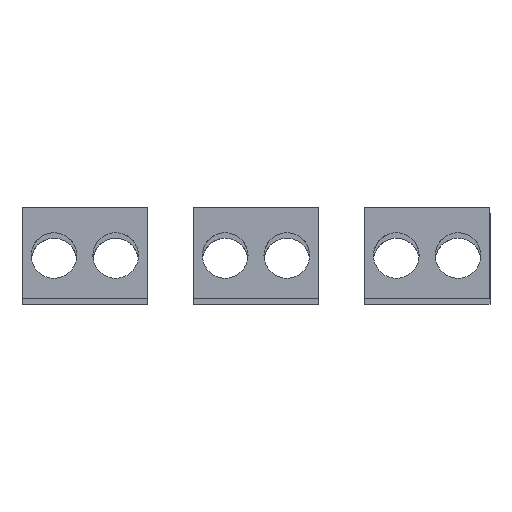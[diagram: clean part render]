
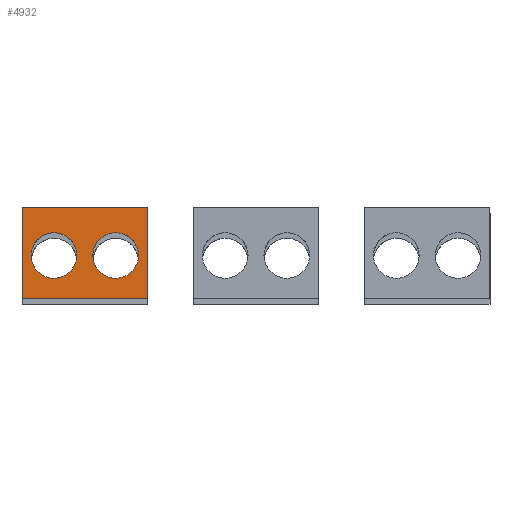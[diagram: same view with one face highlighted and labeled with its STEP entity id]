
A CAD part, front view. The second image highlights one B-rep face of the part: STEP entity #4932.
In plain terms, the highlighted planar face has unit normal (0, -1, 0).
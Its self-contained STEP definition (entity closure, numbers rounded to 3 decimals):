
#97 = CARTESIAN_POINT ( 'NONE',  ( -61.5, -108.2, 51.19 ) ) ;
#245 = CIRCLE ( 'NONE', #909, 10. ) ;
#432 = VERTEX_POINT ( 'NONE', #5271 ) ;
#797 = EDGE_CURVE ( 'NONE', #432, #6805, #245, .T. ) ;
#909 = AXIS2_PLACEMENT_3D ( 'NONE', #97, #1702, #1730 ) ;
#1156 = DIRECTION ( 'NONE',  ( -1., 0., 0. ) ) ;
#1177 = DIRECTION ( 'NONE',  ( 0., 1., 0. ) ) ;
#1305 = EDGE_CURVE ( 'NONE', #1359, #2132, #5941, .T. ) ;
#1331 = CARTESIAN_POINT ( 'NONE',  ( -88.5, -108.2, 51.19 ) ) ;
#1344 = EDGE_CURVE ( 'NONE', #6805, #432, #3382, .T. ) ;
#1359 = VERTEX_POINT ( 'NONE', #5047 ) ;
#1444 = LINE ( 'NONE', #3540, #5403 ) ;
#1592 = DIRECTION ( 'NONE',  ( 1., 0., 0. ) ) ;
#1663 = EDGE_CURVE ( 'NONE', #6325, #6692, #1920, .T. ) ;
#1702 = DIRECTION ( 'NONE',  ( 0., 1., 0. ) ) ;
#1730 = DIRECTION ( 'NONE',  ( -1., 0., 0. ) ) ;
#1784 = ORIENTED_EDGE ( 'NONE', *, *, #2522, .F. ) ;
#1920 = LINE ( 'NONE', #5280, #2876 ) ;
#1936 = ORIENTED_EDGE ( 'NONE', *, *, #1663, .F. ) ;
#2057 = VECTOR ( 'NONE', #6335, 1000. ) ;
#2062 = CARTESIAN_POINT ( 'NONE',  ( -98.5, -108.2, 51.19 ) ) ;
#2119 = LINE ( 'NONE', #6697, #2386 ) ;
#2132 = VERTEX_POINT ( 'NONE', #2062 ) ;
#2184 = DIRECTION ( 'NONE',  ( 0., -1., 0. ) ) ;
#2216 = VERTEX_POINT ( 'NONE', #5183 ) ;
#2244 = AXIS2_PLACEMENT_3D ( 'NONE', #6679, #2277, #6179 ) ;
#2277 = DIRECTION ( 'NONE',  ( 0., 1., 0. ) ) ;
#2288 = FACE_BOUND ( 'NONE', #5858, .T. ) ;
#2386 = VECTOR ( 'NONE', #4530, 1000. ) ;
#2522 = EDGE_CURVE ( 'NONE', #4519, #6325, #2119, .T. ) ;
#2544 = EDGE_CURVE ( 'NONE', #2132, #1359, #5820, .T. ) ;
#2848 = CARTESIAN_POINT ( 'NONE',  ( -61.5, -108.2, 51.19 ) ) ;
#2876 = VECTOR ( 'NONE', #5610, 1000. ) ;
#3004 = ORIENTED_EDGE ( 'NONE', *, *, #797, .T. ) ;
#3032 = DIRECTION ( 'NONE',  ( 1., 0., 0. ) ) ;
#3382 = CIRCLE ( 'NONE', #6017, 10. ) ;
#3540 = CARTESIAN_POINT ( 'NONE',  ( -47.5, -108.2, 32.19 ) ) ;
#3605 = EDGE_CURVE ( 'NONE', #2216, #4519, #4988, .T. ) ;
#3780 = CARTESIAN_POINT ( 'NONE',  ( -47.5, -108.2, 72.19 ) ) ;
#3805 = PLANE ( 'NONE',  #5827 ) ;
#3871 = ORIENTED_EDGE ( 'NONE', *, *, #4121, .F. ) ;
#4121 = EDGE_CURVE ( 'NONE', #6692, #2216, #1444, .T. ) ;
#4182 = FACE_BOUND ( 'NONE', #7038, .T. ) ;
#4233 = CARTESIAN_POINT ( 'NONE',  ( -102.5, -108.2, 72.19 ) ) ;
#4249 = CARTESIAN_POINT ( 'NONE',  ( -51.5, -108.2, 51.19 ) ) ;
#4488 = AXIS2_PLACEMENT_3D ( 'NONE', #1331, #4633, #3032 ) ;
#4493 = CARTESIAN_POINT ( 'NONE',  ( -102.5, -108.2, 32.19 ) ) ;
#4519 = VERTEX_POINT ( 'NONE', #4493 ) ;
#4530 = DIRECTION ( 'NONE',  ( 0., 0., 1. ) ) ;
#4555 = DIRECTION ( 'NONE',  ( 0., 0., -1. ) ) ;
#4633 = DIRECTION ( 'NONE',  ( 0., 1., 0. ) ) ;
#4638 = ORIENTED_EDGE ( 'NONE', *, *, #3605, .F. ) ;
#4932 = ADVANCED_FACE ( 'NONE', ( #2288, #4182, #5211 ), #3805, .T. ) ;
#4988 = LINE ( 'NONE', #5855, #2057 ) ;
#5047 = CARTESIAN_POINT ( 'NONE',  ( -78.5, -108.2, 51.19 ) ) ;
#5054 = ORIENTED_EDGE ( 'NONE', *, *, #2544, .T. ) ;
#5183 = CARTESIAN_POINT ( 'NONE',  ( -47.5, -108.2, 32.19 ) ) ;
#5211 = FACE_OUTER_BOUND ( 'NONE', #5572, .T. ) ;
#5271 = CARTESIAN_POINT ( 'NONE',  ( -71.5, -108.2, 51.19 ) ) ;
#5280 = CARTESIAN_POINT ( 'NONE',  ( -47.5, -108.2, 72.19 ) ) ;
#5403 = VECTOR ( 'NONE', #4555, 1000. ) ;
#5572 = EDGE_LOOP ( 'NONE', ( #3871, #1936, #1784, #4638 ) ) ;
#5610 = DIRECTION ( 'NONE',  ( 1., 0., 0. ) ) ;
#5820 = CIRCLE ( 'NONE', #4488, 10. ) ;
#5827 = AXIS2_PLACEMENT_3D ( 'NONE', #3780, #2184, #1592 ) ;
#5855 = CARTESIAN_POINT ( 'NONE',  ( -47.5, -108.2, 32.19 ) ) ;
#5858 = EDGE_LOOP ( 'NONE', ( #5054, #6594 ) ) ;
#5941 = CIRCLE ( 'NONE', #2244, 10. ) ;
#5943 = CARTESIAN_POINT ( 'NONE',  ( -47.5, -108.2, 72.19 ) ) ;
#6017 = AXIS2_PLACEMENT_3D ( 'NONE', #2848, #1177, #1156 ) ;
#6179 = DIRECTION ( 'NONE',  ( 1., 0., 0. ) ) ;
#6271 = ORIENTED_EDGE ( 'NONE', *, *, #1344, .T. ) ;
#6325 = VERTEX_POINT ( 'NONE', #4233 ) ;
#6335 = DIRECTION ( 'NONE',  ( -1., 0., 0. ) ) ;
#6594 = ORIENTED_EDGE ( 'NONE', *, *, #1305, .T. ) ;
#6679 = CARTESIAN_POINT ( 'NONE',  ( -88.5, -108.2, 51.19 ) ) ;
#6692 = VERTEX_POINT ( 'NONE', #5943 ) ;
#6697 = CARTESIAN_POINT ( 'NONE',  ( -102.5, -108.2, 32.19 ) ) ;
#6805 = VERTEX_POINT ( 'NONE', #4249 ) ;
#7038 = EDGE_LOOP ( 'NONE', ( #3004, #6271 ) ) ;
